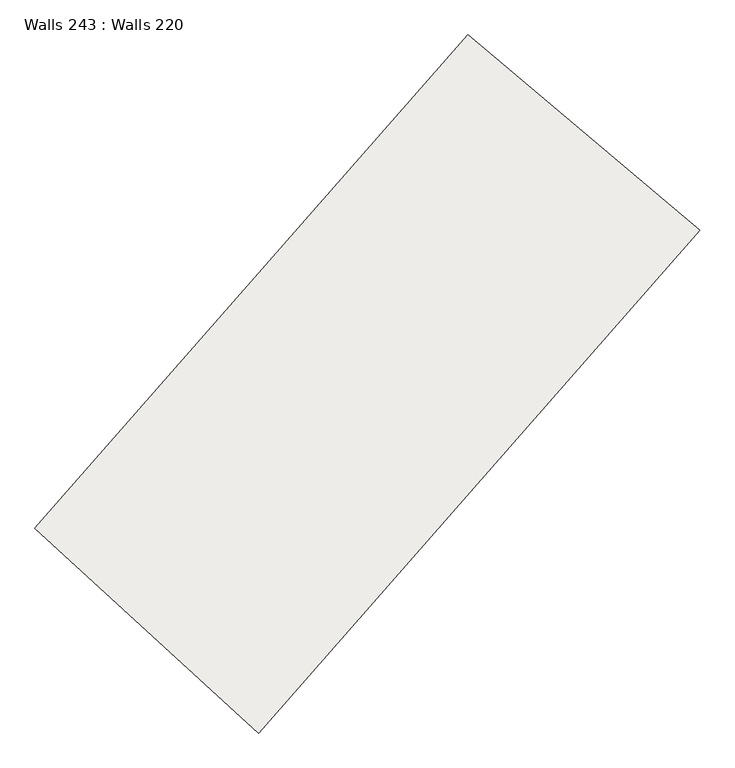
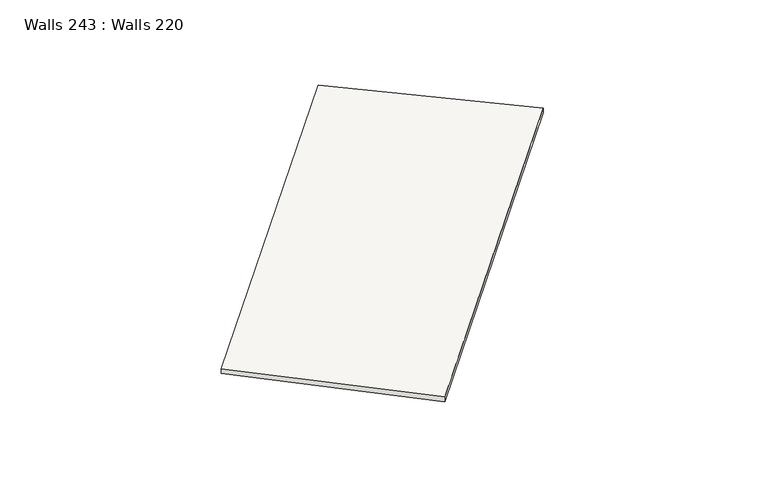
"""IFC4 building model written with IfcOpenShell, lengths in millimetres: slab geometry, Walls 243 : Walls 220."""

from ifc_helpers import new_model, si_unit, frame, origin, place, context, project, spatial, source, transform, mapped, element, save
from ifc_brep_helpers import plane_surface, spline_curve, spline_surface, advanced_brep


def walls_243_walls_220_97213f7a(model_context):
    return source(origin(), model_context, "Body", "AdvancedBrep", [
        advanced_brep(
        [(382366.9941416, 252986.6201326, 644689.0), (382366.9941416, 252986.6201326, 644589.0), (385318.0534302, 250286.3888324, 644589.0), (385318.0534302, 250286.3888324, 644689.0), (388084.3443428, 259494.9687193, 644801.0), (391142.3364487, 256916.4644475, 644801.0), (391142.3364487, 256916.4644475, 644701.0), (388084.3443428, 259494.9687193, 644701.0)],
        [
            (0, 1),
            (1, 2),
            (2, 3),
            (3, 0),
            (4, 5),
            (5, 6),
            (6, 7),
            (7, 4),
            (4, 0, spline_curve(3, [(388084.3443428, 259494.9687193, 644801.0), (386222.76269578, 257287.215160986, 644763.666666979), (384316.458055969, 255117.17227868, 644726.333333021), (382366.9941416, 252986.6201326, 644689.0)], [4, 4], [0.0, 28.691591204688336])),
            (3, 5, spline_curve(3, [(385318.0534302, 250286.3888324, 644689.0), (387303.97858233, 252456.789148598, 644726.333333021), (389245.937243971, 254667.418805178, 644763.666666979), (391142.3364487, 256916.4644475, 644801.0)], [4, 4], [0.0, 28.691591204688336])),
            (7, 1, spline_curve(3, [(388084.3443428, 259494.9687193, 644701.0), (386222.762696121, 257287.215161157, 644663.666666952), (384316.458056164, 255117.172279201, 644626.333333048), (382366.9941416, 252986.6201326, 644589.0)], [4, 4], [0.0, 28.42580844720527])),
            (6, 2, spline_curve(3, [(391142.3364487, 256916.4644475, 644701.0), (389245.937243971, 254667.418805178, 644663.666666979), (387303.97858233, 252456.789148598, 644626.333333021), (385318.0534302, 250286.3888324, 644589.0)], [4, 4], [0.0, 28.691591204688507])),
        ],
        [
            plane_surface(frame((383842.5237859, 251636.5044825, 644639.0), z_axis=(-0.6750578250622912, -0.7377648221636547, 0.0), x_axis=(0.0, 0.0, -1.0))),
            plane_surface(frame((389613.3403957, 258205.7165834, 644751.0), z_axis=(0.6446260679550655, 0.7644980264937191, 0.0), x_axis=(0.0, 0.0, -1.0))),
            spline_surface(3, 3, [[(391142.3364487, 256916.4644475, 644801.0), (389245.937244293, 254667.418804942, 644763.666666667), (387303.978582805, 252456.789148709, 644726.333333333), (385318.0534302, 250286.3888324, 644689.0)], [(390123.005746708, 257775.96587144, 644801.0), (388238.212394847, 255540.684257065, 644763.666666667), (386308.138407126, 253343.58352542, 644726.333333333), (384334.367000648, 251186.465932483, 644689.0)], [(389103.675044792, 258635.46729536, 644801.0), (387230.487545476, 256413.949709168, 644763.666666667), (385312.298231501, 254230.377902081, 644726.333333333), (383350.680571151, 252086.543032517, 644689.0)], [(388084.3443428, 259494.9687193, 644801.0), (386222.76269603, 257287.215161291, 644763.666666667), (384316.458055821, 255117.172278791, 644726.333333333), (382366.9941416, 252986.6201326, 644689.0)]], [4, 4], [4, 4], [0.0, 13.12335948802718], [0.0, 28.691591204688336]),
            spline_surface(3, 3, [[(388084.3443428, 259494.9687193, 644801.0), (386222.76269603, 257287.215161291, 644763.666666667), (384316.458055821, 255117.172278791, 644726.333333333), (382366.9941416, 252986.6201326, 644689.0)], [(388084.3443428, 259494.9687193, 644767.666666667), (386222.76269603, 257287.215161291, 644730.333333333), (384316.458055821, 255117.172278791, 644693.0), (382366.9941416, 252986.6201326, 644655.666666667)], [(388084.3443428, 259494.9687193, 644734.333333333), (386222.76269603, 257287.215161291, 644697.0), (384316.458055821, 255117.172278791, 644659.666666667), (382366.9941416, 252986.6201326, 644622.333333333)], [(388084.3443428, 259494.9687193, 644701.0), (386222.76269603, 257287.215161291, 644663.666666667), (384316.458055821, 255117.172278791, 644626.333333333), (382366.9941416, 252986.6201326, 644589.0)]], [4, 4], [4, 4], [0.0, 0.3280839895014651], [0.0, 28.42580844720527]),
            spline_surface(3, 3, [[(388084.3443428, 259494.9687193, 644701.0), (386222.76269603, 257287.215161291, 644663.666666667), (384316.458055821, 255117.172278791, 644626.333333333), (382366.9941416, 252986.6201326, 644589.0)], [(389103.675044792, 258635.46729536, 644701.0), (387230.487545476, 256413.949709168, 644663.666666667), (385312.298231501, 254230.377902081, 644626.333333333), (383350.680571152, 252086.543032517, 644589.0)], [(390123.005746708, 257775.96587144, 644701.0), (388238.212394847, 255540.684257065, 644663.666666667), (386308.138407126, 253343.58352542, 644626.333333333), (384334.367000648, 251186.465932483, 644589.0)], [(391142.3364487, 256916.4644475, 644701.0), (389245.937244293, 254667.418804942, 644663.666666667), (387303.978582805, 252456.789148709, 644626.333333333), (385318.0534302, 250286.3888324, 644589.0)]], [4, 4], [4, 4], [0.0, 13.123359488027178], [0.0, 28.691591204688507]),
            spline_surface(3, 3, [[(391142.3364487, 256916.4644475, 644701.0), (389245.937244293, 254667.418804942, 644663.666666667), (387303.978582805, 252456.789148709, 644626.333333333), (385318.0534302, 250286.3888324, 644589.0)], [(391142.3364487, 256916.4644475, 644734.333333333), (389245.937244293, 254667.418804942, 644697.0), (387303.978582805, 252456.789148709, 644659.666666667), (385318.0534302, 250286.3888324, 644622.333333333)], [(391142.3364487, 256916.4644475, 644767.666666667), (389245.937244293, 254667.418804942, 644730.333333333), (387303.978582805, 252456.789148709, 644693.0), (385318.0534302, 250286.3888324, 644655.666666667)], [(391142.3364487, 256916.4644475, 644801.0), (389245.937244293, 254667.418804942, 644763.666666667), (387303.978582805, 252456.789148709, 644726.333333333), (385318.0534302, 250286.3888324, 644689.0)]], [4, 4], [4, 4], [0.0, 0.3280839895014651], [0.0, 28.957374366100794]),
        ],
        [
            (0, [[1, 2, 3, 4]]),
            (1, [[5, 6, 7, 8]]),
            (2, [[-5, 9, -4, 10]]),
            (3, [[-8, 11, -1, -9]]),
            (4, [[-7, 12, -2, -11]]),
            (5, [[-6, -10, -3, -12]]),
        ],
    ),
    ])


if __name__ == "__main__":
    model = new_model("IFC4")
    model_context = context("Model", 3, world=origin())
    ifc_project = project(units=[si_unit("LENGTHUNIT", "METRE", prefix="MILLI")], contexts=[model_context])
    site = spatial("IfcSite", under=ifc_project)
    building = spatial("IfcBuilding", under=site)
    placement = place(None, origin())
    walls_243_walls_220_shape = walls_243_walls_220_97213f7a(model_context)
    element("IfcSlab", 1, ObjectType="Walls 243 : Walls 220", at=placement, inside=building, context=model_context, shape_type="MappedRepresentation", body=[
        mapped(walls_243_walls_220_shape, transform((0.0, 0.0, 0.0), x_axis=(1.0, 0.0, 0.0), y_axis=(0.0, 1.0, 0.0), z_axis=(0.0, 0.0, 1.0))),
    ])
    save(model, "model.ifc")
